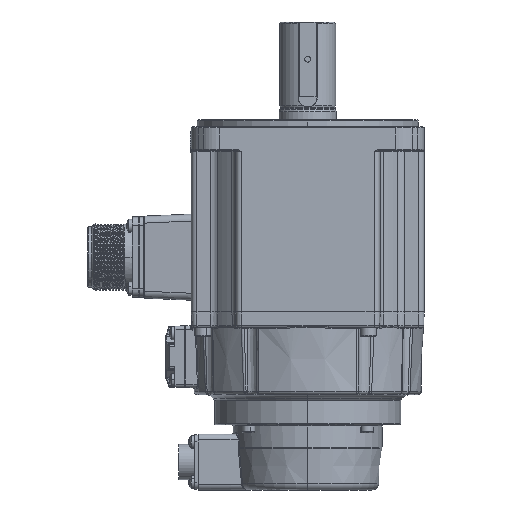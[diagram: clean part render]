
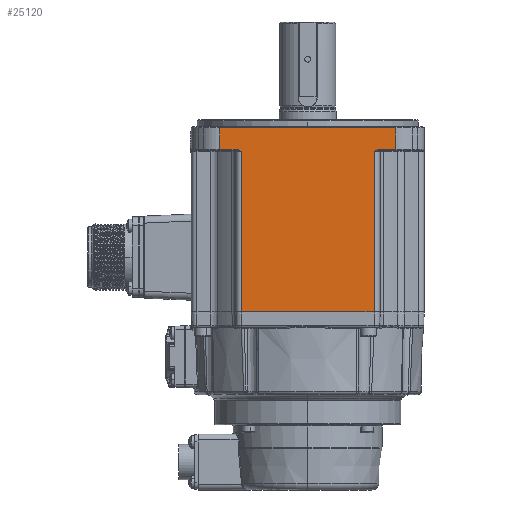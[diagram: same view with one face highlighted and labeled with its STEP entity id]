
A CAD part, left-side view. The second image highlights one B-rep face of the part: STEP entity #25120.
In plain terms, the highlighted planar face has unit normal (-1, 0, 0).
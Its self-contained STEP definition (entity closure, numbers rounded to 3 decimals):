
#1298 = ORIENTED_EDGE ( 'NONE', *, *, #74310, .F. ) ;
#1494 = LINE ( 'NONE', #49495, #7524 ) ;
#3128 = EDGE_CURVE ( 'NONE', #70192, #20693, #86524, .T. ) ;
#5039 = PLANE ( 'NONE',  #53459 ) ;
#5986 = DIRECTION ( 'NONE',  ( 0., -1., 0. ) ) ;
#7524 = VECTOR ( 'NONE', #14048, 1000. ) ;
#8636 = DIRECTION ( 'NONE',  ( 0., 1., 0. ) ) ;
#8896 = DIRECTION ( 'NONE',  ( 0., 0., 1. ) ) ;
#10590 = CARTESIAN_POINT ( 'NONE',  ( -50., -28.5, -168.7 ) ) ;
#11818 = CARTESIAN_POINT ( 'NONE',  ( -50., 28.5, -13.6 ) ) ;
#14048 = DIRECTION ( 'NONE',  ( 0., 0., 1. ) ) ;
#14858 = VERTEX_POINT ( 'NONE', #75867 ) ;
#16787 = VERTEX_POINT ( 'NONE', #75909 ) ;
#19267 = LINE ( 'NONE', #10590, #93262 ) ;
#20693 = VERTEX_POINT ( 'NONE', #93478 ) ;
#21869 = CARTESIAN_POINT ( 'NONE',  ( -50., 30.736, -12.6 ) ) ;
#21902 = LINE ( 'NONE', #67301, #78970 ) ;
#22110 = ORIENTED_EDGE ( 'NONE', *, *, #25799, .T. ) ;
#24240 = VERTEX_POINT ( 'NONE', #66827 ) ;
#25120 = ADVANCED_FACE ( 'NONE', ( #30034 ), #5039, .T. ) ;
#25799 = EDGE_CURVE ( 'NONE', #54599, #55763, #69717, .T. ) ;
#25873 = DIRECTION ( 'NONE',  ( 0., -1., 0. ) ) ;
#26125 = VECTOR ( 'NONE', #101546, 1000. ) ;
#26853 = CARTESIAN_POINT ( 'NONE',  ( -50., -30.315, -12.6 ) ) ;
#27884 = CARTESIAN_POINT ( 'NONE',  ( -50., -37.858, -3.5 ) ) ;
#28390 = VERTEX_POINT ( 'NONE', #87018 ) ;
#28977 = ORIENTED_EDGE ( 'NONE', *, *, #30274, .T. ) ;
#29104 = LINE ( 'NONE', #55819, #50494 ) ;
#29694 = DIRECTION ( 'NONE',  ( 0., 0., -1. ) ) ;
#30034 = FACE_OUTER_BOUND ( 'NONE', #70921, .T. ) ;
#30274 = EDGE_CURVE ( 'NONE', #14858, #87943, #97343, .T. ) ;
#30343 = VECTOR ( 'NONE', #5986, 1000. ) ;
#32564 = EDGE_CURVE ( 'NONE', #55763, #14858, #29104, .T. ) ;
#34856 = EDGE_CURVE ( 'NONE', #16787, #24240, #21902, .T. ) ;
#35362 = CARTESIAN_POINT ( 'NONE',  ( -50., 37.858, -3.5 ) ) ;
#37926 = ORIENTED_EDGE ( 'NONE', *, *, #45280, .T. ) ;
#38779 = CARTESIAN_POINT ( 'NONE',  ( -50., 28.839, -13.36 ) ) ;
#38824 = VECTOR ( 'NONE', #8636, 1000. ) ;
#41506 = ORIENTED_EDGE ( 'NONE', *, *, #34856, .T. ) ;
#43356 = DIRECTION ( 'NONE',  ( -1., 0., 0. ) ) ;
#45280 = EDGE_CURVE ( 'NONE', #28390, #54599, #65898, .T. ) ;
#48062 = DIRECTION ( 'NONE',  ( 0., -1., 0. ) ) ;
#48393 = LINE ( 'NONE', #83423, #30343 ) ;
#48605 = CARTESIAN_POINT ( 'NONE',  ( -50., 30.315, -12.6 ) ) ;
#49495 = CARTESIAN_POINT ( 'NONE',  ( -50., 28.5, -168.7 ) ) ;
#50494 = VECTOR ( 'NONE', #29694, 1000. ) ;
#52898 = CARTESIAN_POINT ( 'NONE',  ( -50., -42., -12.6 ) ) ;
#53459 = AXIS2_PLACEMENT_3D ( 'NONE', #70705, #43356, #25873 ) ;
#53745 = CARTESIAN_POINT ( 'NONE',  ( -50., 30.736, -12.6 ) ) ;
#54599 = VERTEX_POINT ( 'NONE', #27884 ) ;
#55763 = VERTEX_POINT ( 'NONE', #71847 ) ;
#55819 = CARTESIAN_POINT ( 'NONE',  ( -50., 37.858, -310.121 ) ) ;
#57716 = CARTESIAN_POINT ( 'NONE',  ( -50., -37.858, -310.121 ) ) ;
#62876 = EDGE_CURVE ( 'NONE', #24240, #70192, #19267, .T. ) ;
#63520 = CARTESIAN_POINT ( 'NONE',  ( -50., -30.736, -12.6 ) ) ;
#65898 = LINE ( 'NONE', #57716, #26125 ) ;
#66827 = CARTESIAN_POINT ( 'NONE',  ( -50., -28.5, -82.5 ) ) ;
#67273 = CARTESIAN_POINT ( 'NONE',  ( -50., 29.912, -12.743 ) ) ;
#67301 = CARTESIAN_POINT ( 'NONE',  ( -50., -42., -82.5 ) ) ;
#69717 = LINE ( 'NONE', #35362, #38824 ) ;
#70192 = VERTEX_POINT ( 'NONE', #100375 ) ;
#70705 = CARTESIAN_POINT ( 'NONE',  ( -50., -42., -310.121 ) ) ;
#70921 = EDGE_LOOP ( 'NONE', ( #1298, #41506, #91456, #99461, #89512, #37926, #22110, #88593, #28977, #93774 ) ) ;
#71847 = CARTESIAN_POINT ( 'NONE',  ( -50., 37.858, -3.5 ) ) ;
#72275 = CARTESIAN_POINT ( 'NONE',  ( -50., -29.178, -13.12 ) ) ;
#74310 = EDGE_CURVE ( 'NONE', #16787, #94452, #1494, .T. ) ;
#75867 = CARTESIAN_POINT ( 'NONE',  ( -50., 37.858, -12.6 ) ) ;
#75909 = CARTESIAN_POINT ( 'NONE',  ( -50., 28.5, -82.5 ) ) ;
#78970 = VECTOR ( 'NONE', #48062, 1000. ) ;
#81033 = CARTESIAN_POINT ( 'NONE',  ( -50., -28.5, -13.6 ) ) ;
#82632 = EDGE_CURVE ( 'NONE', #87943, #94452, #91614, .T. ) ;
#83423 = CARTESIAN_POINT ( 'NONE',  ( -50., -42., -12.6 ) ) ;
#86524 = B_SPLINE_CURVE_WITH_KNOTS ( 'NONE', 3,
 ( #81033, #114948, #72275, #89278, #26853, #63520 ),
 .UNSPECIFIED., .F., .F.,
 ( 4, 2, 4 ),
 ( 0., 0.001, 0.002 ),
 .UNSPECIFIED. ) ;
#87018 = CARTESIAN_POINT ( 'NONE',  ( -50., -37.858, -12.6 ) ) ;
#87943 = VERTEX_POINT ( 'NONE', #53745 ) ;
#88593 = ORIENTED_EDGE ( 'NONE', *, *, #32564, .T. ) ;
#89278 = CARTESIAN_POINT ( 'NONE',  ( -50., -29.912, -12.743 ) ) ;
#89512 = ORIENTED_EDGE ( 'NONE', *, *, #103313, .T. ) ;
#91456 = ORIENTED_EDGE ( 'NONE', *, *, #62876, .T. ) ;
#91614 = B_SPLINE_CURVE_WITH_KNOTS ( 'NONE', 3,
 ( #21869, #48605, #67273, #102896, #38779, #94156 ),
 .UNSPECIFIED., .F., .F.,
 ( 4, 2, 4 ),
 ( 0., 0.001, 0.002 ),
 .UNSPECIFIED. ) ;
#93262 = VECTOR ( 'NONE', #8896, 1000. ) ;
#93478 = CARTESIAN_POINT ( 'NONE',  ( -50., -30.736, -12.6 ) ) ;
#93774 = ORIENTED_EDGE ( 'NONE', *, *, #82632, .T. ) ;
#94156 = CARTESIAN_POINT ( 'NONE',  ( -50., 28.5, -13.6 ) ) ;
#94452 = VERTEX_POINT ( 'NONE', #11818 ) ;
#97343 = LINE ( 'NONE', #52898, #115285 ) ;
#99461 = ORIENTED_EDGE ( 'NONE', *, *, #3128, .T. ) ;
#100375 = CARTESIAN_POINT ( 'NONE',  ( -50., -28.5, -13.6 ) ) ;
#101546 = DIRECTION ( 'NONE',  ( 0., 0., 1. ) ) ;
#102896 = CARTESIAN_POINT ( 'NONE',  ( -50., 29.178, -13.12 ) ) ;
#103313 = EDGE_CURVE ( 'NONE', #20693, #28390, #48393, .T. ) ;
#106695 = DIRECTION ( 'NONE',  ( 0., -1., 0. ) ) ;
#114948 = CARTESIAN_POINT ( 'NONE',  ( -50., -28.839, -13.36 ) ) ;
#115285 = VECTOR ( 'NONE', #106695, 1000. ) ;
